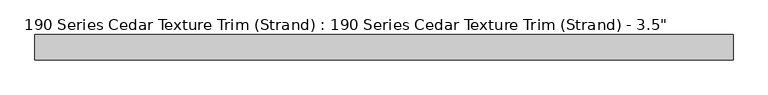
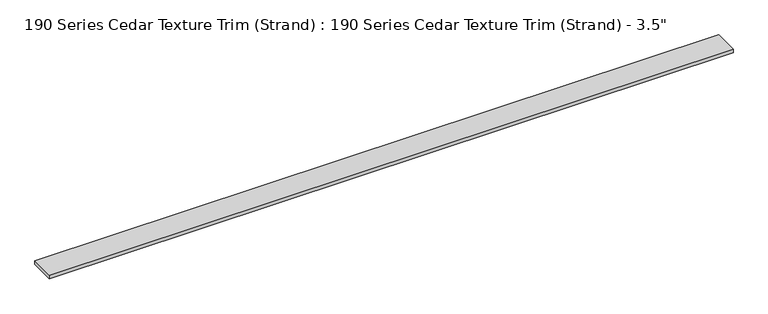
"""IFC4 building model written with IfcOpenShell, lengths in millimetres: proxy geometry."""

from ifc_helpers import new_model, si_unit, origin, origin_with_axes, place, context, project, spatial, polyline, outline, extrude, source, transform, mapped, element, save


def proxy_391a7ef2(model_context):
    return source(origin(), model_context, "Body", "SweptSolid", [
        extrude(outline(polyline([(2438.4, 0.0), (0.0, 0.0), (0.0, 88.9), (2438.4, 88.9), (2438.4, 0.0)])), origin_with_axes(), (0.0, 0.0, 1.0), 13.49375),
    ])


if __name__ == "__main__":
    model = new_model("IFC4")
    model_context = context("Model", 3, world=origin())
    ifc_project = project(units=[si_unit("LENGTHUNIT", "METRE", prefix="MILLI")], contexts=[model_context])
    site = spatial("IfcSite", under=ifc_project)
    building = spatial("IfcBuilding", under=site)
    placement = place(None, origin())
    proxy_shape = proxy_391a7ef2(model_context)
    element("IfcBuildingElementProxy", 1, Name="190 Series Cedar Texture Trim (Strand) : 190 Series Cedar Texture Trim (Strand) - 3.5\"", ObjectType="190 Series Cedar Texture Trim (Strand) : 190 Series Cedar Texture Trim (Strand) - 3.5\"", at=placement, inside=building, context=model_context, shape_type="MappedRepresentation", body=[
        mapped(proxy_shape, transform((0.0, 0.0, 0.0), x_axis=(1.0, 0.0, 0.0), y_axis=(0.0, 1.0, 0.0), z_axis=(0.0, 0.0, 1.0))),
    ])
    save(model, "model.ifc")
